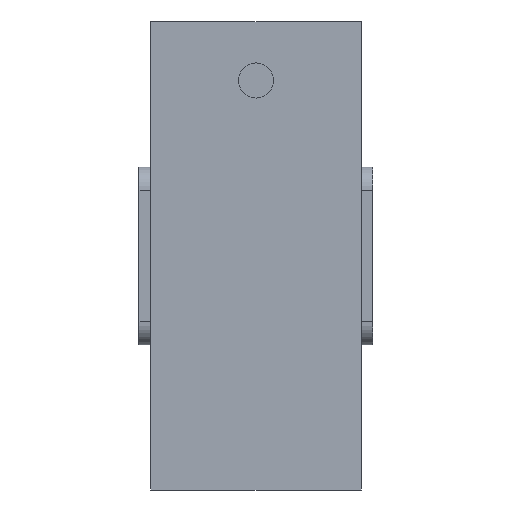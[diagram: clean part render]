
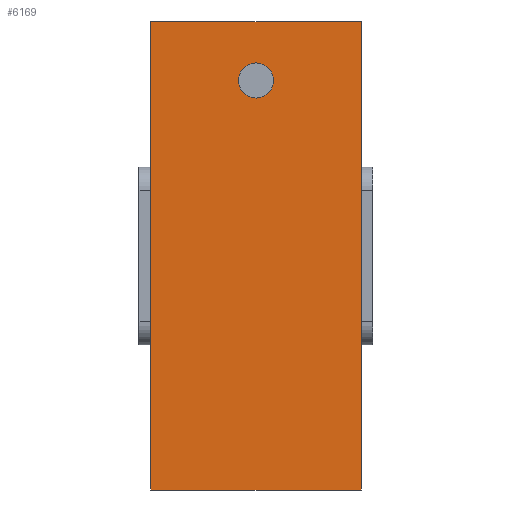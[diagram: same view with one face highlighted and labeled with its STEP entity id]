
A CAD part, left-side view. The second image highlights one B-rep face of the part: STEP entity #6169.
In plain terms, the highlighted planar face has unit normal (-1, 0, 0).
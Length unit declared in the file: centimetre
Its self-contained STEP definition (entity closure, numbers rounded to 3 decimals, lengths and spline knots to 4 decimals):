
#1245=VECTOR('',#7760,1.);
#1265=VECTOR('',#7811,1.);
#1291=VECTOR('',#7929,1.);
#1292=VECTOR('',#7931,1.);
#1758=LINE('',#9795,#1245);
#1778=LINE('',#9854,#1265);
#1804=LINE('',#9999,#1291);
#1805=LINE('',#10001,#1292);
#1921=VERTEX_POINT('',#8378);
#2301=VERTEX_POINT('',#9794);
#2302=VERTEX_POINT('',#9796);
#2322=VERTEX_POINT('',#9853);
#2323=VERTEX_POINT('',#9855);
#2457=CIRCLE('',#6270,0.15);
#2738=EDGE_CURVE('',#1921,#1921,#2457,.T.);
#3277=EDGE_CURVE('',#2302,#2301,#1758,.T.);
#3307=EDGE_CURVE('',#2323,#2322,#1778,.T.);
#3367=EDGE_CURVE('',#2302,#2322,#1804,.T.);
#3368=EDGE_CURVE('',#2301,#2323,#1805,.T.);
#4779=ORIENTED_EDGE('',*,*,#2738,.T.);
#4780=ORIENTED_EDGE('',*,*,#3277,.T.);
#4781=ORIENTED_EDGE('',*,*,#3368,.T.);
#4782=ORIENTED_EDGE('',*,*,#3307,.T.);
#4783=ORIENTED_EDGE('',*,*,#3367,.F.);
#5437=EDGE_LOOP('',(#4779));
#5438=EDGE_LOOP('',(#4780,#4781,#4782,#4783));
#5825=FACE_BOUND('',#5437,.T.);
#5826=FACE_BOUND('',#5438,.T.);
#6169=ADVANCED_FACE('',(#5825,#5826),#10694,.T.);
#6270=AXIS2_PLACEMENT_3D('',#8377,#6868,#6869);
#6662=AXIS2_PLACEMENT_3D('',#10000,#7930,$);
#6868=DIRECTION('',(1.,0.,0.));
#6869=DIRECTION('',(0.,0.15,0.));
#7760=DIRECTION('',(0.,0.,1.));
#7811=DIRECTION('',(0.,0.,-1.));
#7929=DIRECTION('',(0.,1.,0.));
#7930=DIRECTION('',(-1.,0.,0.));
#7931=DIRECTION('',(0.,1.,0.));
#8377=CARTESIAN_POINT('',(-2.,0.,1.5));
#8378=CARTESIAN_POINT('',(-2.,0.15,1.5));
#9794=CARTESIAN_POINT('',(-2.,-0.9,2.));
#9795=CARTESIAN_POINT('',(-2.,-0.9,0.0533));
#9796=CARTESIAN_POINT('',(-2.,-0.9,-2.));
#9853=CARTESIAN_POINT('',(-2.,0.9,-2.));
#9854=CARTESIAN_POINT('',(-2.,0.9,0.0533));
#9855=CARTESIAN_POINT('',(-2.,0.9,2.));
#9999=CARTESIAN_POINT('',(-2.,-1.,-2.));
#10000=CARTESIAN_POINT('',(-2.,-1.,0.));
#10001=CARTESIAN_POINT('',(-2.,-1.,2.));
#10694=PLANE('',#6662);
